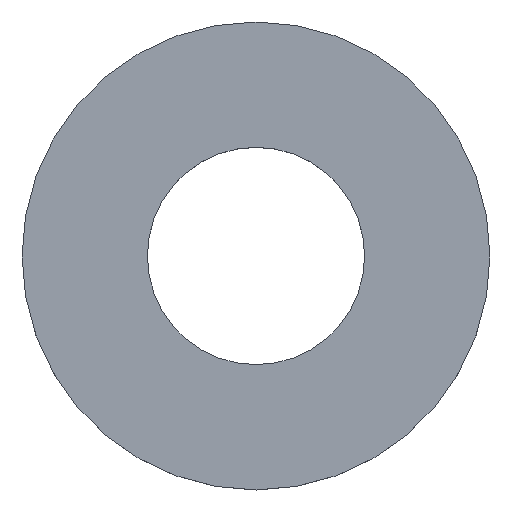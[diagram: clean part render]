
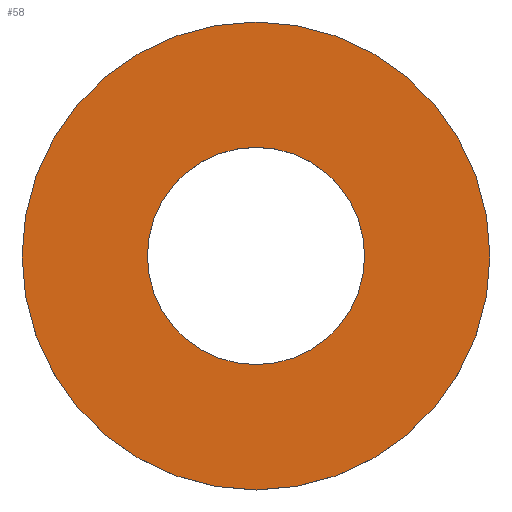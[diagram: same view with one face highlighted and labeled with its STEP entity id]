
A CAD part, top view. The second image highlights one B-rep face of the part: STEP entity #58.
In plain terms, the highlighted planar face has unit normal (0, 0, 1).
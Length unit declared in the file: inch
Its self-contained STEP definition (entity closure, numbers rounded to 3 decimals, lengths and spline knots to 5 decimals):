
#16=PLANE('',#68);
#20=FACE_BOUND('',#32,.T.);
#24=FACE_OUTER_BOUND('',#31,.T.);
#31=EDGE_LOOP('',(#51));
#32=EDGE_LOOP('',(#52));
#33=CIRCLE('',#62,0.8125);
#35=CIRCLE('',#65,1.75);
#37=VERTEX_POINT('',#89);
#39=VERTEX_POINT('',#94);
#41=EDGE_CURVE('',#37,#37,#33,.T.);
#43=EDGE_CURVE('',#39,#39,#35,.T.);
#51=ORIENTED_EDGE('',*,*,#43,.T.);
#52=ORIENTED_EDGE('',*,*,#41,.T.);
#58=ADVANCED_FACE('',(#24,#20),#16,.T.);
#62=AXIS2_PLACEMENT_3D('',#90,#73,#74);
#65=AXIS2_PLACEMENT_3D('',#95,#79,#80);
#68=AXIS2_PLACEMENT_3D('',#99,#85,#86);
#73=DIRECTION('center_axis',(0.,0.,-1.));
#74=DIRECTION('ref_axis',(-1.,0.,0.));
#79=DIRECTION('center_axis',(0.,0.,1.));
#80=DIRECTION('ref_axis',(-1.,0.,0.));
#85=DIRECTION('center_axis',(0.,0.,1.));
#86=DIRECTION('ref_axis',(1.,0.,0.));
#89=CARTESIAN_POINT('',(0.8125,0.,0.25));
#90=CARTESIAN_POINT('Origin',(0.,0.,0.25));
#94=CARTESIAN_POINT('',(1.75,0.,0.25));
#95=CARTESIAN_POINT('Origin',(0.,0.,0.25));
#99=CARTESIAN_POINT('Origin',(0.,0.,0.25));
